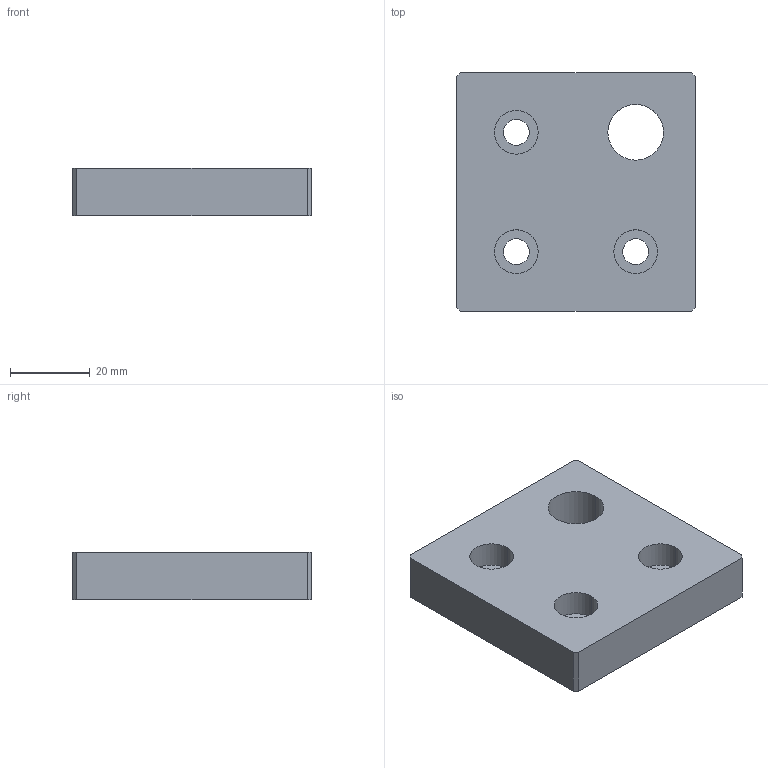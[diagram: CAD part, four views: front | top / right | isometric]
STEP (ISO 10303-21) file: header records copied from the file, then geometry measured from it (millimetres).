
FILE_DESCRIPTION (( 'STEP AP203' ), '1' );
FILE_NAME ('PF6060N.STEP', '2024-02-19T03:09:35', ( '' ), ( '' ), 'SwSTEP 2.0', 'SolidWorks 2022', '' );
FILE_SCHEMA (( 'CONFIG_CONTROL_DESIGN' ));
Length unit declared in the file: millimetre
Products named in the file (1): PF6060N
Bounding box: 60 x 60 x 12 mm (x, y, z)
Volume: 38928.1 mm3; surface area: 11079.5 mm2
Topology: 1 solids, 1 shells, 27 faces, 66 edges, 44 vertices
Faces by surface type: cylinder 14, plane 13
Entity records: 901 total; most frequent: DIRECTION 150, CARTESIAN_POINT 138, ORIENTED_EDGE 132, EDGE_CURVE 66, AXIS2_PLACEMENT_3D 56, VERTEX_POINT 44, VECTOR 38, EDGE_LOOP 38
